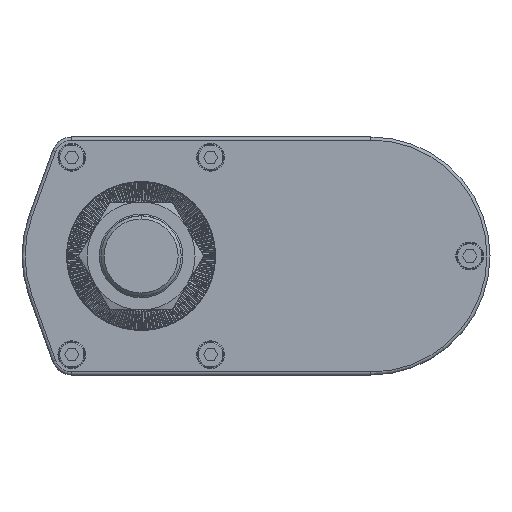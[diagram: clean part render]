
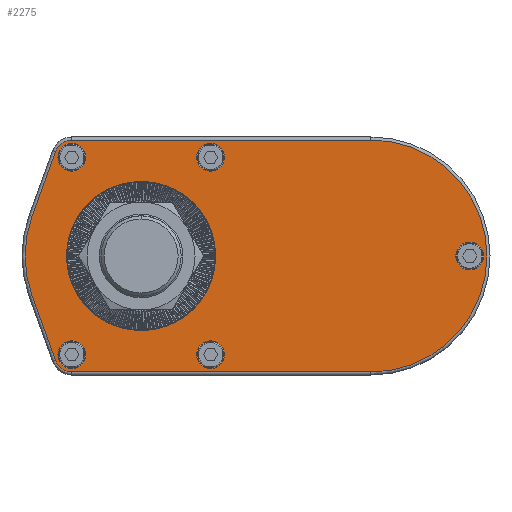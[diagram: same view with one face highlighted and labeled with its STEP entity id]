
A CAD part, left-side view. The second image highlights one B-rep face of the part: STEP entity #2275.
In plain terms, the highlighted planar face has unit normal (-1, 0, 0).
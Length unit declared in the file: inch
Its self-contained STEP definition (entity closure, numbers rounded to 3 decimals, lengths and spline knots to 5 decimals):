
#2275=ADVANCED_FACE('',(#5896,#5897,#5898,#5899,#5900,#5901,#5902),#5903,.F.);
#5896=FACE_BOUND('',#11026,.T.);
#5897=FACE_BOUND('',#11027,.T.);
#5898=FACE_BOUND('',#11028,.T.);
#5899=FACE_BOUND('',#11029,.T.);
#5900=FACE_BOUND('',#11030,.T.);
#5901=FACE_BOUND('',#11031,.T.);
#5902=FACE_OUTER_BOUND('',#11032,.T.);
#5903=PLANE('',#11033);
#11026=EDGE_LOOP('',(#18260,#18261));
#11027=EDGE_LOOP('',(#18262,#18263));
#11028=EDGE_LOOP('',(#18264,#18265));
#11029=EDGE_LOOP('',(#18266,#18267));
#11030=EDGE_LOOP('',(#18268,#18269));
#11031=EDGE_LOOP('',(#18270,#18271));
#11032=EDGE_LOOP('',(#18272,#18273,#18274,#18275,#18276,#18277,#18278,#18279));
#11033=AXIS2_PLACEMENT_3D('',#18280,#18281,#18282);
#18260=ORIENTED_EDGE('',*,*,#31754,.F.);
#18261=ORIENTED_EDGE('',*,*,#30796,.F.);
#18262=ORIENTED_EDGE('',*,*,#31755,.T.);
#18263=ORIENTED_EDGE('',*,*,#31756,.T.);
#18264=ORIENTED_EDGE('',*,*,#31757,.T.);
#18265=ORIENTED_EDGE('',*,*,#31234,.T.);
#18266=ORIENTED_EDGE('',*,*,#31758,.T.);
#18267=ORIENTED_EDGE('',*,*,#31759,.T.);
#18268=ORIENTED_EDGE('',*,*,#30076,.T.);
#18269=ORIENTED_EDGE('',*,*,#31760,.T.);
#18270=ORIENTED_EDGE('',*,*,#31761,.T.);
#18271=ORIENTED_EDGE('',*,*,#30156,.T.);
#18272=ORIENTED_EDGE('',*,*,#31762,.T.);
#18273=ORIENTED_EDGE('',*,*,#31763,.T.);
#18274=ORIENTED_EDGE('',*,*,#31166,.T.);
#18275=ORIENTED_EDGE('',*,*,#31764,.T.);
#18276=ORIENTED_EDGE('',*,*,#31765,.T.);
#18277=ORIENTED_EDGE('',*,*,#31766,.T.);
#18278=ORIENTED_EDGE('',*,*,#31767,.T.);
#18279=ORIENTED_EDGE('',*,*,#31768,.T.);
#18280=CARTESIAN_POINT('',(0.0,-2.93307,0.0));
#18281=DIRECTION('',(1.0,0.0,0.0));
#18282=DIRECTION('',(0.0,1.0,-0.0));
#30076=EDGE_CURVE('',#35769,#35773,#35775,.T.);
#30156=EDGE_CURVE('',#35917,#35915,#35918,.T.);
#30796=EDGE_CURVE('',#37082,#36640,#37084,.F.);
#31166=EDGE_CURVE('',#37714,#37712,#37715,.F.);
#31234=EDGE_CURVE('',#37825,#37823,#37826,.T.);
#31754=EDGE_CURVE('',#36640,#37082,#38657,.F.);
#31755=EDGE_CURVE('',#38658,#38659,#38660,.T.);
#31756=EDGE_CURVE('',#38659,#38658,#38661,.T.);
#31757=EDGE_CURVE('',#37823,#37825,#38662,.T.);
#31758=EDGE_CURVE('',#38663,#38664,#38665,.T.);
#31759=EDGE_CURVE('',#38664,#38663,#38666,.T.);
#31760=EDGE_CURVE('',#35773,#35769,#38667,.T.);
#31761=EDGE_CURVE('',#35915,#35917,#38668,.T.);
#31762=EDGE_CURVE('',#38669,#38670,#38671,.F.);
#31763=EDGE_CURVE('',#38670,#37714,#38672,.F.);
#31764=EDGE_CURVE('',#37712,#38673,#38674,.F.);
#31765=EDGE_CURVE('',#38673,#38675,#38676,.F.);
#31766=EDGE_CURVE('',#38675,#38677,#38678,.F.);
#31767=EDGE_CURVE('',#38677,#38679,#38680,.F.);
#31768=EDGE_CURVE('',#38679,#38669,#38681,.F.);
#35769=VERTEX_POINT('',#43844);
#35773=VERTEX_POINT('',#43849);
#35775=CIRCLE('',#43852,0.17717);
#35915=VERTEX_POINT('',#44034);
#35917=VERTEX_POINT('',#44037);
#35918=CIRCLE('',#44038,0.17717);
#36640=VERTEX_POINT('',#45012);
#37082=VERTEX_POINT('',#45455);
#37084=CIRCLE('',#45458,0.94882);
#37712=VERTEX_POINT('',#46273);
#37714=VERTEX_POINT('',#46275);
#37715=CIRCLE('',#46276,0.22047);
#37823=VERTEX_POINT('',#46431);
#37825=VERTEX_POINT('',#46434);
#37826=CIRCLE('',#46435,0.17717);
#38657=CIRCLE('',#47568,0.94882);
#38658=VERTEX_POINT('',#47569);
#38659=VERTEX_POINT('',#47570);
#38660=CIRCLE('',#47571,0.17717);
#38661=CIRCLE('',#47572,0.17717);
#38662=CIRCLE('',#47573,0.17717);
#38663=VERTEX_POINT('',#47574);
#38664=VERTEX_POINT('',#47575);
#38665=CIRCLE('',#47576,0.17717);
#38666=CIRCLE('',#47577,0.17717);
#38667=CIRCLE('',#47578,0.17717);
#38668=CIRCLE('',#47579,0.17717);
#38669=VERTEX_POINT('',#47580);
#38670=VERTEX_POINT('',#47581);
#38671=CIRCLE('',#47582,1.48031);
#38672=LINE('',#47583,#47584);
#38673=VERTEX_POINT('',#47585);
#38674=LINE('',#47586,#47587);
#38675=VERTEX_POINT('',#47588);
#38676=CIRCLE('',#47589,1.48031);
#38677=VERTEX_POINT('',#47590);
#38678=LINE('',#47591,#47592);
#38679=VERTEX_POINT('',#47593);
#38680=CIRCLE('',#47594,0.22047);
#38681=LINE('',#47595,#47596);
#43844=CARTESIAN_POINT('',(0.0,-0.8874,1.08268));
#43849=CARTESIAN_POINT('',(0.0,-0.8874,1.43701));
#43852=AXIS2_PLACEMENT_3D('',#54589,#54590,#54591);
#44034=CARTESIAN_POINT('',(0.0,0.88425,-1.43701));
#44037=CARTESIAN_POINT('',(0.0,0.88425,-1.08268));
#44038=AXIS2_PLACEMENT_3D('',#54689,#54690,#54691);
#45012=CARTESIAN_POINT('',(0.0,0.0,-0.94882));
#45455=CARTESIAN_POINT('',(0.0,0.,0.94882));
#45458=AXIS2_PLACEMENT_3D('',#55857,#55858,#55859);
#46273=CARTESIAN_POINT('',(0.0,0.88425,-1.48031));
#46275=CARTESIAN_POINT('',(0.0,1.0916,-1.33479));
#46276=AXIS2_PLACEMENT_3D('',#56395,#56396,#56397);
#46431=CARTESIAN_POINT('',(0.0,0.88425,1.08268));
#46434=CARTESIAN_POINT('',(0.0,0.88425,1.43701));
#46435=AXIS2_PLACEMENT_3D('',#56467,#56468,#56469);
#47568=AXIS2_PLACEMENT_3D('',#57132,#57133,#57134);
#47569=CARTESIAN_POINT('',(0.0,-4.19449,-0.17717));
#47570=CARTESIAN_POINT('',(0.0,-4.19449,0.17717));
#47571=AXIS2_PLACEMENT_3D('',#57135,#57136,#57137);
#47572=AXIS2_PLACEMENT_3D('',#57138,#57139,#57140);
#47573=AXIS2_PLACEMENT_3D('',#57141,#57142,#57143);
#47574=CARTESIAN_POINT('',(0.0,-0.8874,-1.43701));
#47575=CARTESIAN_POINT('',(0.0,-0.8874,-1.08268));
#47576=AXIS2_PLACEMENT_3D('',#57144,#57145,#57146);
#47577=AXIS2_PLACEMENT_3D('',#57147,#57148,#57149);
#47578=AXIS2_PLACEMENT_3D('',#57150,#57151,#57152);
#47579=AXIS2_PLACEMENT_3D('',#57153,#57154,#57155);
#47580=CARTESIAN_POINT('',(0.0,1.39217,0.50319));
#47581=CARTESIAN_POINT('',(0.0,1.39217,-0.50319));
#47582=AXIS2_PLACEMENT_3D('',#57156,#57157,#57158);
#47583=CARTESIAN_POINT('',(0.0,1.0916,-1.33479));
#47584=VECTOR('',#57159,39.37008);
#47585=CARTESIAN_POINT('',(0.0,-2.93307,-1.48031));
#47586=CARTESIAN_POINT('',(0.0,-2.93307,-1.48031));
#47587=VECTOR('',#57160,39.37008);
#47588=CARTESIAN_POINT('',(0.0,-2.93307,1.48031));
#47589=AXIS2_PLACEMENT_3D('',#57161,#57162,#57163);
#47590=CARTESIAN_POINT('',(0.0,0.88425,1.48031));
#47591=CARTESIAN_POINT('',(0.0,0.88425,1.48031));
#47592=VECTOR('',#57164,39.37008);
#47593=CARTESIAN_POINT('',(0.0,1.0916,1.33479));
#47594=AXIS2_PLACEMENT_3D('',#57165,#57166,#57167);
#47595=CARTESIAN_POINT('',(0.0,1.39217,0.50319));
#47596=VECTOR('',#57168,39.37008);
#54589=CARTESIAN_POINT('',(0.0,-0.8874,1.25984));
#54590=DIRECTION('',(1.0,0.0,0.0));
#54591=DIRECTION('',(0.0,0.0,-1.0));
#54689=CARTESIAN_POINT('',(0.0,0.88425,-1.25984));
#54690=DIRECTION('',(1.0,0.0,0.0));
#54691=DIRECTION('',(0.0,0.0,-1.0));
#55857=CARTESIAN_POINT('',(0.0,0.0,0.0));
#55858=DIRECTION('',(1.0,0.0,0.0));
#55859=DIRECTION('',(0.0,0.0,-1.0));
#56395=CARTESIAN_POINT('',(0.0,0.88425,-1.25984));
#56396=DIRECTION('',(1.0,0.0,0.0));
#56397=DIRECTION('',(0.0,0.0,-1.0));
#56467=CARTESIAN_POINT('',(0.0,0.88425,1.25984));
#56468=DIRECTION('',(1.0,0.0,0.0));
#56469=DIRECTION('',(0.0,0.0,-1.0));
#57132=CARTESIAN_POINT('',(0.0,0.0,0.0));
#57133=DIRECTION('',(1.0,0.0,0.0));
#57134=DIRECTION('',(0.0,0.0,-1.0));
#57135=CARTESIAN_POINT('',(0.0,-4.19449,0.0));
#57136=DIRECTION('',(1.0,0.0,0.0));
#57137=DIRECTION('',(0.0,0.0,-1.0));
#57138=CARTESIAN_POINT('',(0.0,-4.19449,0.0));
#57139=DIRECTION('',(1.0,0.0,0.0));
#57140=DIRECTION('',(0.0,0.0,-1.0));
#57141=CARTESIAN_POINT('',(0.0,0.88425,1.25984));
#57142=DIRECTION('',(1.0,0.0,0.0));
#57143=DIRECTION('',(0.0,0.0,-1.0));
#57144=CARTESIAN_POINT('',(0.0,-0.8874,-1.25984));
#57145=DIRECTION('',(1.0,0.0,0.0));
#57146=DIRECTION('',(0.0,0.0,-1.0));
#57147=CARTESIAN_POINT('',(0.0,-0.8874,-1.25984));
#57148=DIRECTION('',(1.0,0.0,0.0));
#57149=DIRECTION('',(0.0,0.0,-1.0));
#57150=CARTESIAN_POINT('',(0.0,-0.8874,1.25984));
#57151=DIRECTION('',(1.0,0.0,0.0));
#57152=DIRECTION('',(0.0,0.0,-1.0));
#57153=CARTESIAN_POINT('',(0.0,0.88425,-1.25984));
#57154=DIRECTION('',(1.0,0.0,0.0));
#57155=DIRECTION('',(0.0,0.0,-1.0));
#57156=CARTESIAN_POINT('',(0.0,0.,0.0));
#57157=DIRECTION('',(1.0,0.0,0.0));
#57158=DIRECTION('',(0.0,0.0,-1.0));
#57159=DIRECTION('',(0.0,0.34,0.94));
#57160=DIRECTION('',(0.0,1.0,0.0));
#57161=CARTESIAN_POINT('',(0.0,-2.93307,0.0));
#57162=DIRECTION('',(1.0,0.0,0.0));
#57163=DIRECTION('',(0.0,0.0,-1.0));
#57164=DIRECTION('',(0.0,-1.0,0.0));
#57165=CARTESIAN_POINT('',(0.0,0.88425,1.25984));
#57166=DIRECTION('',(1.0,0.0,0.0));
#57167=DIRECTION('',(0.0,0.0,-1.0));
#57168=DIRECTION('',(0.0,-0.34,0.94));
